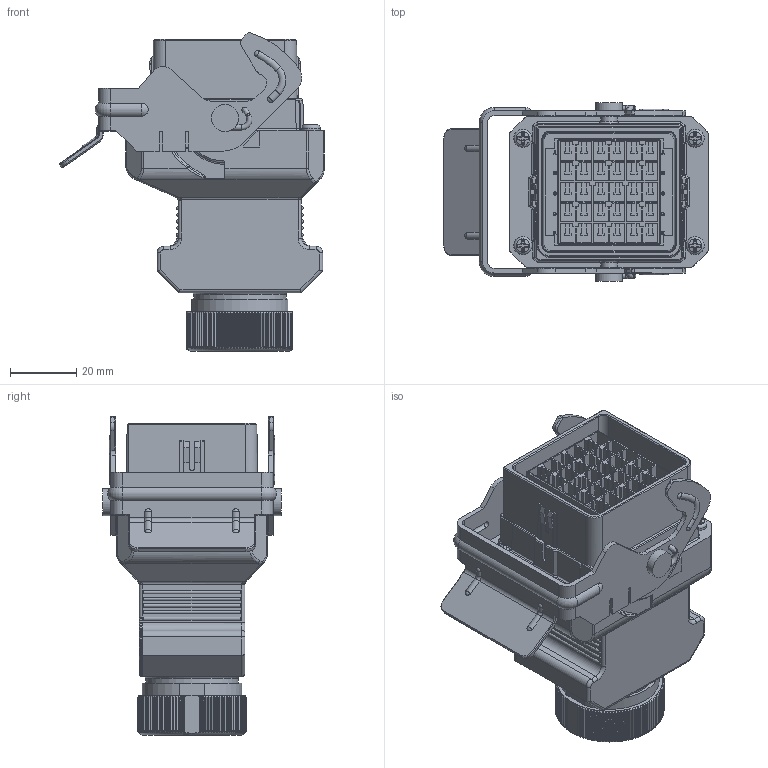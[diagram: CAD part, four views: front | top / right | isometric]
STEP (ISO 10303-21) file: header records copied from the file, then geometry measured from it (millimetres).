
FILE_DESCRIPTION (( 'STEP AP203' ), '1' );
FILE_NAME ('DK-3P30ETC-S(R1).STEP', '2023-03-16T06:35:33', ( '' ), ( '' ), 'SwSTEP 2.0', 'SolidWorks 2018', '' );
FILE_SCHEMA (( 'CONFIG_CONTROL_DESIGN' ));
Products named in the file (1): DK-3P30ETC-S(R1)
Bounding box: 79.92 x 54 x 96.23 mm (x, y, z)
Volume: 87464.8 mm3; surface area: 55868.5 mm2
Topology: 1 solids, 1 shells, 3894 faces, 10969 edges, 7141 vertices
Faces by surface type: plane 2582, cylinder 760, bspline 406, sphere 55, torus 54, cone 37
Full cylindrical faces by diameter (mm): 1.6 x2, 2.5 x2, 4 x2, 4.5 x2, 5 x4, 5.5 x4, 8.2 x2, 23 x2, 24.2 x1, 28 x1
Entity records: 140320 total; most frequent: CARTESIAN_POINT 44948, ORIENTED_EDGE 21648, DIRECTION 16810, EDGE_CURVE 10824, VECTOR 7796, LINE 7796, VERTEX_POINT 7101, AXIS2_PLACEMENT_3D 4507
